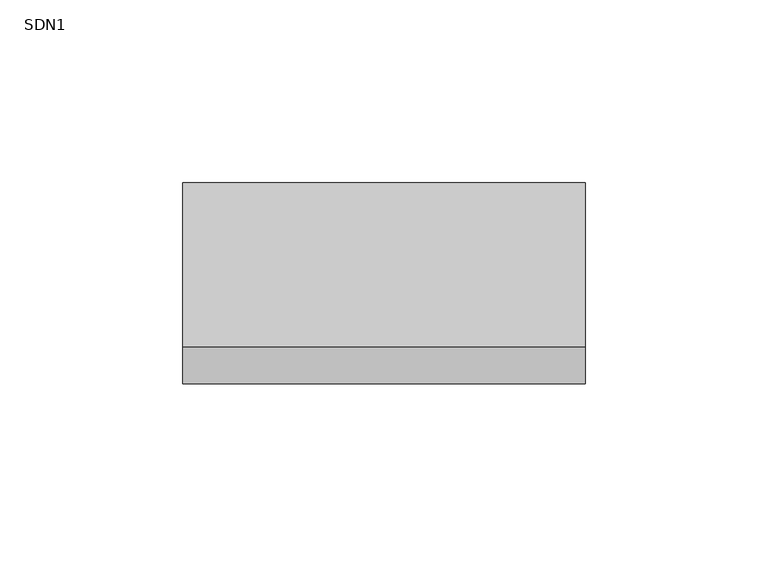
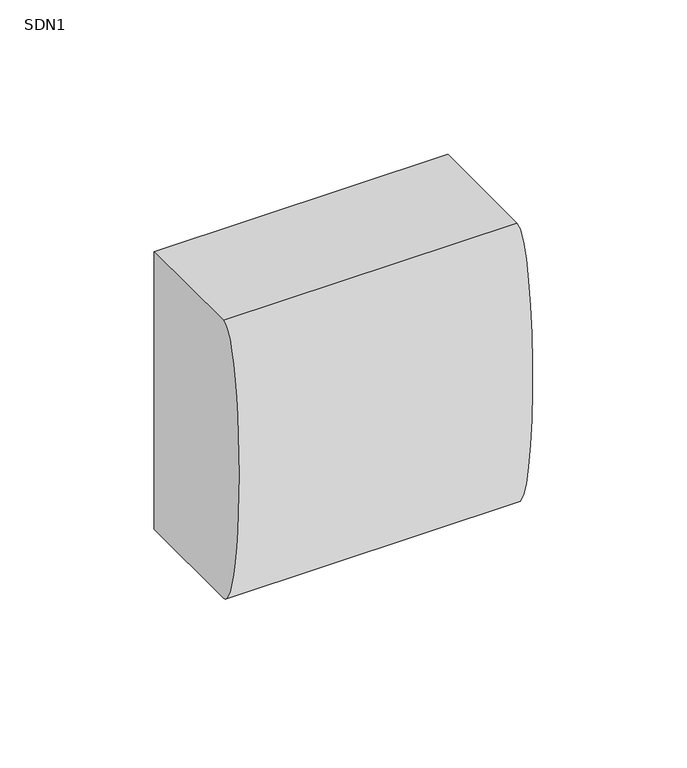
"""IFC4 building model written with IfcOpenShell, lengths in millimetres: proxy geometry, КНС_КоробкаРаспределительнаяSDN_ILC_DKC : SDN1."""

from ifc_helpers import new_model, si_unit, point, frame, origin, place, context, project, spatial, ellipse_curve, trimmed, source, transform, mapped, element, save
from ifc_brep_helpers import plane_surface, extruded_surface, advanced_brep


def sdn1_948e4bac(model_context):
    return source(origin(), model_context, "Body", "AdvancedBrep", [
        advanced_brep(
        [(55.0, -45.0, 55.0), (55.0, -45.0, -55.0), (55.0, 0.0, -55.0), (55.0, 0.0, 55.0), (-55.0, -45.0, 55.0), (-55.0, 0.0, 55.0), (-55.0, 0.0, -55.0), (-55.0, -45.0, -55.0)],
        [
            (0, 1, ellipse_curve(frame((55.0, -45.0, 0.0), z_axis=(1.0, 0.0, 0.0), x_axis=(0.0, 0.0, -1.0)), 55.0, 10.0)),
            (1, 2),
            (2, 3),
            (3, 0),
            (4, 5),
            (5, 6),
            (6, 7),
            (7, 4, ellipse_curve(frame((-55.0, -45.0, 0.0), z_axis=(-1.0, 0.0, 0.0), x_axis=(0.0, 0.0, -1.0)), 55.0, 10.0)),
            (0, 4),
            (7, 1),
            (6, 2),
            (5, 3),
        ],
        [
            plane_surface(frame((55.0, -45.0, -55.0), z_axis=(1.0, 0.0, 0.0), x_axis=(0.0, 1.0, 0.0))),
            plane_surface(frame((-55.0, -45.0, -55.0), z_axis=(-1.0, 0.0, 0.0), x_axis=(0.0, -1.0, 0.0))),
            extruded_surface(trimmed(ellipse_curve(frame((-165.0, -45.0, 0.0), z_axis=(1.0, 0.0, 0.0), x_axis=(0.0, 0.0, -1.0)), 55.0, 10.0), [point((-165.0, -45.0, 55.0))], [point((-165.0, -45.0, -55.0))], True, "CARTESIAN"), (110.0, 0.0, 0.0), 110.0),
            plane_surface(frame((55.0, -45.0, -55.0), z_axis=(0.0, 0.0, -1.0), x_axis=(-1.0, 0.0, 0.0))),
            plane_surface(frame((55.0, 0.0, -55.0), z_axis=(0.0, 1.0, 0.0), x_axis=(-1.0, 0.0, 0.0))),
            plane_surface(frame((55.0, 0.0, 55.0), z_axis=(0.0, 0.0, 1.0), x_axis=(-1.0, 0.0, 0.0))),
        ],
        [
            (0, [[1, 2, 3, 4]]),
            (1, [[5, 6, 7, 8]]),
            (2, [[-1, 9, -8, 10]]),
            (3, [[-2, -10, -7, 11]]),
            (4, [[-3, -11, -6, 12]]),
            (5, [[-4, -12, -5, -9]]),
        ],
    ),
    ])


if __name__ == "__main__":
    model = new_model("IFC4")
    model_context = context("Model", 3, world=origin())
    ifc_project = project(units=[si_unit("LENGTHUNIT", "METRE", prefix="MILLI")], contexts=[model_context])
    site = spatial("IfcSite", under=ifc_project)
    building = spatial("IfcBuilding", under=site)
    placement = place(None, origin())
    sdn1_shape = sdn1_948e4bac(model_context)
    element("IfcBuildingElementProxy", 1, Name="КНС_КоробкаРаспределительнаяSDN_ILC_DKC : SDN1", ObjectType="КНС_КоробкаРаспределительнаяSDN_ILC_DKC : SDN1", at=placement, inside=building, context=model_context, shape_type="MappedRepresentation", body=[
        mapped(sdn1_shape, transform((0.0, 0.0, 0.0), x_axis=(1.0, 0.0, 0.0), y_axis=(0.0, 1.0, 0.0), z_axis=(0.0, 0.0, 1.0))),
    ])
    save(model, "model.ifc")
